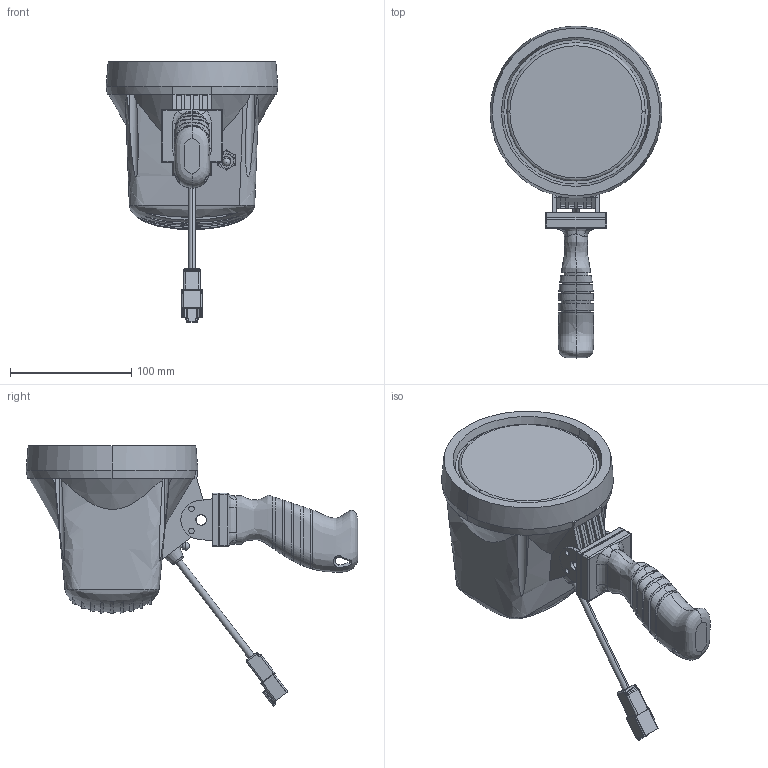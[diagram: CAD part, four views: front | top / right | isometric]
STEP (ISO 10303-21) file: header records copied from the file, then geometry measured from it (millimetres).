
FILE_DESCRIPTION (( 'STEP AP203' ), '1' );
FILE_NAME ('HUL-18 STEP.STEP', '2014-06-24T22:20:49', ( 'Rob' ), ( '' ), 'SwSTEP 2.0', 'SolidWorks 2013', '' );
FILE_SCHEMA (( 'CONFIG_CONTROL_DESIGN' ));
Length unit declared in the file: inch
Products named in the file (6): handle for HUL; hid-5502 part; TinySwitch^HID-5502 Assembly; HID-5502 Assembly; deutsch female dc04; HUL-18 STEP
Assembly tree (5 placements, depth 3):
  HUL-18 STEP
    handle for HUL
    HID-5502 Assembly
      hid-5502 part
      TinySwitch^HID-5502 Assembly
    deutsch female dc04
Bounding box: 141.99 x 274.16 x 215.48 mm (x, y, z)
Volume: 1536022.6 mm3; surface area: 115480 mm2
Topology: 4 solids, 4 shells, 354 faces, 900 edges, 561 vertices
Faces by surface type: plane 170, cylinder 91, bspline 52, sphere 16, cone 15, torus 10
Entity records: 50006 total; most frequent: CARTESIAN_POINT 41256, ORIENTED_EDGE 1764, DIRECTION 1541, EDGE_CURVE 882, AXIS2_PLACEMENT_3D 564, VERTEX_POINT 559, LINE 413, VECTOR 413
